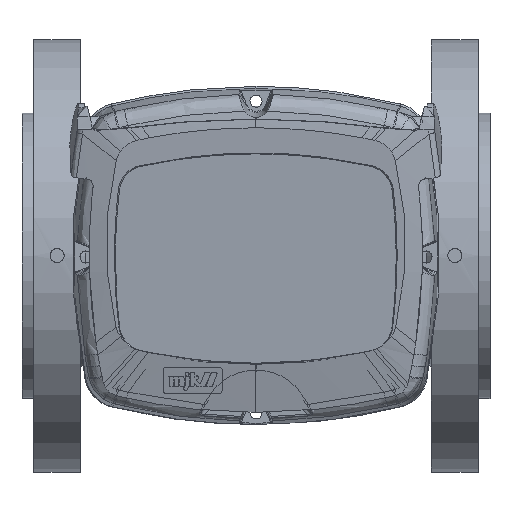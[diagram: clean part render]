
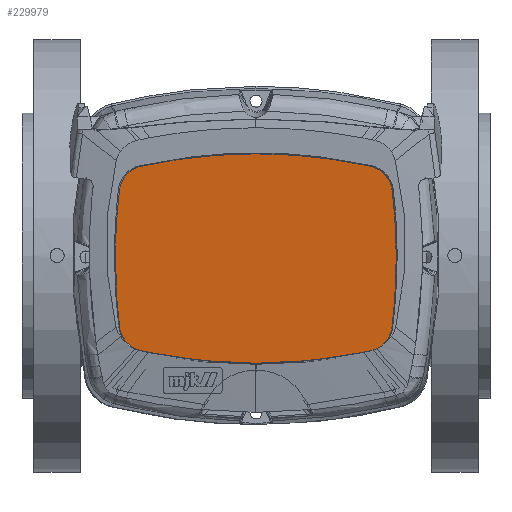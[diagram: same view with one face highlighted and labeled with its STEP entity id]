
A CAD part, top view. The second image highlights one B-rep face of the part: STEP entity #229979.
In plain terms, the highlighted planar face has unit normal (0, -0.107, 0.994) as drawn and (0, -0.064, 0.998) by its records, which use the part's own axes.
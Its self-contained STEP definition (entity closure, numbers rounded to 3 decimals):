
#221530=CARTESIAN_POINT('',(49.216,-44.38,5.882));
#221531=VERTEX_POINT('',#221530);
#221539=CARTESIAN_POINT('',(0.272,-49.704,5.541));
#221540=VERTEX_POINT('',#221539);
#221541=CARTESIAN_POINT('',(0.272,177.009,20.081));
#221542=DIRECTION('',(0.,0.064,-0.998));
#221543=DIRECTION('',(0.,-0.998,-0.064));
#221544=AXIS2_PLACEMENT_3D('',#221541,#221542,#221543);
#221545=CIRCLE('',#221544,227.179);
#221546=EDGE_CURVE('',#221531,#221540,#221545,.T.);
#229825=CARTESIAN_POINT('',(-48.671,34.747,10.957));
#229826=VERTEX_POINT('',#229825);
#229833=CARTESIAN_POINT('',(0.272,40.071,11.299));
#229834=VERTEX_POINT('',#229833);
#229835=CARTESIAN_POINT('',(0.277,-186.686,-3.245));
#229836=DIRECTION('',(0.,-0.064,0.998));
#229837=DIRECTION('',(-0.215,0.975,0.063));
#229838=AXIS2_PLACEMENT_3D('',#229835,#229836,#229837);
#229839=CIRCLE('',#229838,227.223);
#229840=EDGE_CURVE('',#229834,#229826,#229839,.T.);
#229851=CARTESIAN_POINT('',(60.272,-4.817,8.42));
#229852=DIRECTION('',(0.0,-0.064,0.998));
#229853=DIRECTION('',(1.0,0.0,0.0));
#229854=AXIS2_PLACEMENT_3D('',#229851,#229852,#229853);
#229855=PLANE('',#229854);
#229856=CARTESIAN_POINT('',(-57.971,24.484,10.299));
#229857=VERTEX_POINT('',#229856);
#229858=CARTESIAN_POINT('',(-46.094,23.093,10.21));
#229859=DIRECTION('',(0.,-0.064,0.998));
#229860=DIRECTION('',(0.601,-0.798,-0.051));
#229861=AXIS2_PLACEMENT_3D('',#229858,#229859,#229860);
#229862=ELLIPSE('',#229861,11.959,11.958);
#229863=EDGE_CURVE('',#229826,#229857,#229862,.T.);
#229864=ORIENTED_EDGE('',*,*,#229863,.T.);
#229865=CARTESIAN_POINT('',(-59.728,-4.817,8.42));
#229866=VERTEX_POINT('',#229865);
#229867=CARTESIAN_POINT('',(186.538,-4.817,8.42));
#229868=DIRECTION('',(0.,-0.064,0.998));
#229869=DIRECTION('',(-1.,0.,0.));
#229870=AXIS2_PLACEMENT_3D('',#229867,#229868,#229869);
#229871=CIRCLE('',#229870,246.265);
#229872=EDGE_CURVE('',#229857,#229866,#229871,.T.);
#229873=ORIENTED_EDGE('',*,*,#229872,.T.);
#229874=CARTESIAN_POINT('',(-48.671,-44.38,5.882));
#229875=VERTEX_POINT('',#229874);
#229876=CARTESIAN_POINT('',(-59.728,-4.817,8.42));
#229877=CARTESIAN_POINT('',(-59.728,-12.738,7.912));
#229878=CARTESIAN_POINT('',(-59.344,-20.657,7.404));
#229879=CARTESIAN_POINT('',(-58.577,-28.545,6.898));
#229880=CARTESIAN_POINT('',(-58.396,-30.406,6.778));
#229881=CARTESIAN_POINT('',(-58.194,-32.264,6.659));
#229882=CARTESIAN_POINT('',(-57.971,-34.117,6.54));
#229883=CARTESIAN_POINT('',(-57.97,-34.128,6.54));
#229884=CARTESIAN_POINT('',(-57.969,-34.139,6.539));
#229885=CARTESIAN_POINT('',(-57.967,-34.15,6.538));
#229886=CARTESIAN_POINT('',(-57.858,-35.055,6.48));
#229887=CARTESIAN_POINT('',(-57.658,-35.969,6.422));
#229888=CARTESIAN_POINT('',(-57.253,-37.016,6.354));
#229889=CARTESIAN_POINT('',(-56.951,-37.8,6.304));
#229890=CARTESIAN_POINT('',(-56.492,-38.701,6.246));
#229891=CARTESIAN_POINT('',(-55.941,-39.499,6.195));
#229892=CARTESIAN_POINT('',(-54.653,-41.363,6.076));
#229893=CARTESIAN_POINT('',(-52.821,-42.851,5.98));
#229894=CARTESIAN_POINT('',(-50.727,-43.729,5.924));
#229895=CARTESIAN_POINT('',(-50.429,-43.854,5.916));
#229896=CARTESIAN_POINT('',(-50.13,-43.965,5.909));
#229897=CARTESIAN_POINT('',(-49.817,-44.068,5.902));
#229898=CARTESIAN_POINT('',(-49.517,-44.166,5.896));
#229899=CARTESIAN_POINT('',(-49.119,-44.282,5.888));
#229900=CARTESIAN_POINT('',(-48.671,-44.38,5.882));
#229901=B_SPLINE_CURVE_WITH_KNOTS('',3,(#229876,#229877,#229878,#229879,#229880,#229881,#229882,#229883,#229884,#229885,#229886,#229887,#229888,#229889,#229890,#229891,#229892,#229893,#229894,#229895,#229896,#229897,#229898,#229899,#229900),.UNSPECIFIED.,.F.,.U.,(4,3,3,3,3,3,3,3,4),(1.361,1.767,1.863,1.864,1.911,1.946,2.027,2.039,2.05),.UNSPECIFIED.);
#229902=EDGE_CURVE('',#229866,#229875,#229901,.T.);
#229903=ORIENTED_EDGE('',*,*,#229902,.T.);
#229904=CARTESIAN_POINT('',(0.272,177.009,20.081));
#229905=DIRECTION('',(0.,-0.064,0.998));
#229906=DIRECTION('',(0.,-0.998,-0.064));
#229907=AXIS2_PLACEMENT_3D('',#229904,#229905,#229906);
#229908=CIRCLE('',#229907,227.179);
#229909=EDGE_CURVE('',#229875,#221540,#229908,.T.);
#229910=ORIENTED_EDGE('',*,*,#229909,.T.);
#229911=ORIENTED_EDGE('',*,*,#221546,.F.);
#229912=CARTESIAN_POINT('',(60.272,-4.817,8.42));
#229913=VERTEX_POINT('',#229912);
#229914=CARTESIAN_POINT('',(60.272,-4.817,8.42));
#229915=CARTESIAN_POINT('',(60.272,-9.712,8.106));
#229916=CARTESIAN_POINT('',(60.126,-14.606,7.792));
#229917=CARTESIAN_POINT('',(59.833,-19.492,7.478));
#229918=CARTESIAN_POINT('',(59.657,-22.429,7.29));
#229919=CARTESIAN_POINT('',(59.428,-25.363,7.102));
#229920=CARTESIAN_POINT('',(59.146,-28.293,6.914));
#229921=CARTESIAN_POINT('',(58.969,-30.134,6.796));
#229922=CARTESIAN_POINT('',(58.77,-31.979,6.678));
#229923=CARTESIAN_POINT('',(58.553,-33.805,6.56));
#229924=CARTESIAN_POINT('',(58.541,-33.909,6.554));
#229925=CARTESIAN_POINT('',(58.528,-34.013,6.547));
#229926=CARTESIAN_POINT('',(58.516,-34.117,6.54));
#229927=CARTESIAN_POINT('',(58.514,-34.128,6.54));
#229928=CARTESIAN_POINT('',(58.513,-34.139,6.539));
#229929=CARTESIAN_POINT('',(58.512,-34.15,6.538));
#229930=CARTESIAN_POINT('',(58.386,-35.197,6.471));
#229931=CARTESIAN_POINT('',(58.145,-36.258,6.403));
#229932=CARTESIAN_POINT('',(57.59,-37.521,6.322));
#229933=CARTESIAN_POINT('',(57.282,-38.221,6.277));
#229934=CARTESIAN_POINT('',(56.857,-38.982,6.228));
#229935=CARTESIAN_POINT('',(56.374,-39.658,6.185));
#229936=CARTESIAN_POINT('',(55.551,-40.809,6.111));
#229937=CARTESIAN_POINT('',(54.517,-41.816,6.047));
#229938=CARTESIAN_POINT('',(53.343,-42.609,5.996));
#229939=CARTESIAN_POINT('',(52.524,-43.162,5.96));
#229940=CARTESIAN_POINT('',(51.64,-43.612,5.931));
#229941=CARTESIAN_POINT('',(50.708,-43.948,5.91));
#229942=CARTESIAN_POINT('',(50.42,-44.052,5.903));
#229943=CARTESIAN_POINT('',(50.128,-44.149,5.897));
#229944=CARTESIAN_POINT('',(49.732,-44.255,5.89));
#229945=CARTESIAN_POINT('',(49.57,-44.298,5.887));
#229946=CARTESIAN_POINT('',(49.397,-44.34,5.885));
#229947=CARTESIAN_POINT('',(49.216,-44.38,5.882));
#229948=B_SPLINE_CURVE_WITH_KNOTS('',3,(#229914,#229915,#229916,#229917,#229918,#229919,#229920,#229921,#229922,#229923,#229924,#229925,#229926,#229927,#229928,#229929,#229930,#229931,#229932,#229933,#229934,#229935,#229936,#229937,#229938,#229939,#229940,#229941,#229942,#229943,#229944,#229945,#229946,#229947),.UNSPECIFIED.,.F.,.U.,(4,3,3,3,3,3,3,3,3,3,3,4),(-10.59,-8.491,-7.229,-6.437,-6.392,-6.387,-5.934,-5.684,-5.257,-4.959,-4.867,-4.829),.UNSPECIFIED.);
#229949=EDGE_CURVE('',#229913,#221531,#229948,.T.);
#229950=ORIENTED_EDGE('',*,*,#229949,.F.);
#229951=CARTESIAN_POINT('',(58.516,24.484,10.299));
#229952=VERTEX_POINT('',#229951);
#229953=CARTESIAN_POINT('',(-185.993,-4.817,8.42));
#229954=DIRECTION('',(0.,0.064,-0.998));
#229955=DIRECTION('',(1.,0.,0.));
#229956=AXIS2_PLACEMENT_3D('',#229953,#229954,#229955);
#229957=CIRCLE('',#229956,246.265);
#229958=EDGE_CURVE('',#229952,#229913,#229957,.T.);
#229959=ORIENTED_EDGE('',*,*,#229958,.F.);
#229960=CARTESIAN_POINT('',(49.216,34.747,10.957));
#229961=VERTEX_POINT('',#229960);
#229962=CARTESIAN_POINT('',(46.639,23.093,10.21));
#229963=DIRECTION('',(0.,0.064,-0.998));
#229964=DIRECTION('',(0.601,0.798,0.051));
#229965=AXIS2_PLACEMENT_3D('',#229962,#229963,#229964);
#229966=ELLIPSE('',#229965,11.959,11.958);
#229967=EDGE_CURVE('',#229961,#229952,#229966,.T.);
#229968=ORIENTED_EDGE('',*,*,#229967,.F.);
#229969=CARTESIAN_POINT('',(0.267,-186.686,-3.245));
#229970=DIRECTION('',(0.,0.064,-0.998));
#229971=DIRECTION('',(0.215,0.975,0.063));
#229972=AXIS2_PLACEMENT_3D('',#229969,#229970,#229971);
#229973=CIRCLE('',#229972,227.223);
#229974=EDGE_CURVE('',#229834,#229961,#229973,.T.);
#229975=ORIENTED_EDGE('',*,*,#229974,.F.);
#229976=ORIENTED_EDGE('',*,*,#229840,.T.);
#229977=EDGE_LOOP('',(#229864,#229873,#229903,#229910,#229911,#229950,#229959,#229968,#229975,#229976));
#229978=FACE_OUTER_BOUND('',#229977,.T.);
#229979=ADVANCED_FACE('',(#229978),#229855,.T.);
